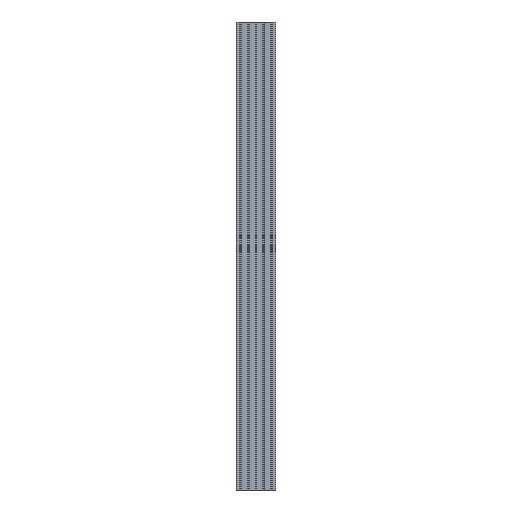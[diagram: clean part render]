
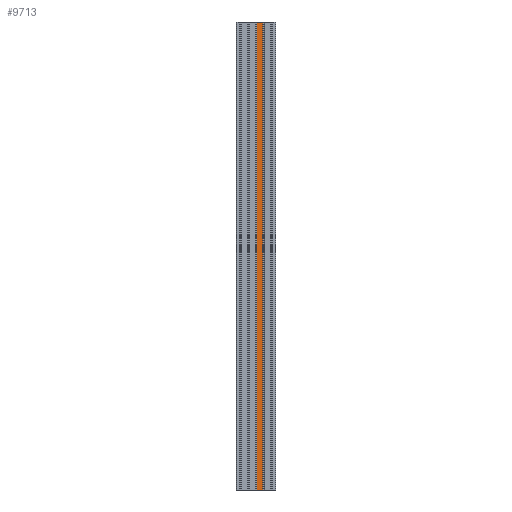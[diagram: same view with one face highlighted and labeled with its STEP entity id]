
A CAD part, front view. The second image highlights one B-rep face of the part: STEP entity #9713.
In plain terms, the highlighted planar face has unit normal (0, -1, 0).
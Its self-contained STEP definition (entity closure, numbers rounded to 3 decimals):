
#773 = FACE_OUTER_BOUND ( 'NONE', #2323, .T. ) ;
#2323 = EDGE_LOOP ( 'NONE', ( #8112, #8114, #8101, #8100 ) ) ;
#2378 = VERTEX_POINT ( 'NONE', #6570 ) ;
#2381 = VERTEX_POINT ( 'NONE', #6565 ) ;
#2488 = EDGE_CURVE ( 'NONE', #11028, #2378, #6370, .T. ) ;
#2490 = EDGE_CURVE ( 'NONE', #11029, #2381, #6367, .T. ) ;
#2515 = EDGE_CURVE ( 'NONE', #2381, #2378, #6315, .T. ) ;
#3007 = EDGE_CURVE ( 'NONE', #11029, #11028, #5459, .T. ) ;
#5456 = VECTOR ( 'NONE', #6844, 1000. ) ;
#5459 = LINE ( 'NONE', #6843, #5456 ) ;
#6310 = VECTOR ( 'NONE', #7570, 1000. ) ;
#6315 = LINE ( 'NONE', #7565, #6310 ) ;
#6360 = VECTOR ( 'NONE', #7517, 1000. ) ;
#6367 = LINE ( 'NONE', #7507, #6360 ) ;
#6368 = VECTOR ( 'NONE', #7509, 1000. ) ;
#6370 = LINE ( 'NONE', #7496, #6368 ) ;
#6565 = CARTESIAN_POINT ( 'NONE',  ( 5.55, 0., -1500. ) ) ;
#6570 = CARTESIAN_POINT ( 'NONE',  ( 44.45, 0., -1500. ) ) ;
#6843 = CARTESIAN_POINT ( 'NONE',  ( 5.55, 0., 1500. ) ) ;
#6844 = DIRECTION ( 'NONE',  ( 1., 0., 0. ) ) ;
#7496 = CARTESIAN_POINT ( 'NONE',  ( 44.45, 0., 1500. ) ) ;
#7507 = CARTESIAN_POINT ( 'NONE',  ( 5.55, 0., 1500. ) ) ;
#7509 = DIRECTION ( 'NONE',  ( 0., 0., -1. ) ) ;
#7517 = DIRECTION ( 'NONE',  ( 0., 0., -1. ) ) ;
#7565 = CARTESIAN_POINT ( 'NONE',  ( 5.55, 0., -1500. ) ) ;
#7570 = DIRECTION ( 'NONE',  ( 1., 0., 0. ) ) ;
#8100 = ORIENTED_EDGE ( 'NONE', *, *, #2490, .T. ) ;
#8101 = ORIENTED_EDGE ( 'NONE', *, *, #3007, .F. ) ;
#8112 = ORIENTED_EDGE ( 'NONE', *, *, #2515, .T. ) ;
#8114 = ORIENTED_EDGE ( 'NONE', *, *, #2488, .F. ) ;
#9331 = AXIS2_PLACEMENT_3D ( 'NONE', #12697, #12706, #12707 ) ;
#9713 = ADVANCED_FACE ( 'NONE', ( #773 ), #12704, .F. ) ;
#10394 = CARTESIAN_POINT ( 'NONE',  ( 44.45, 0., 1500. ) ) ;
#10395 = CARTESIAN_POINT ( 'NONE',  ( 5.55, 0., 1500. ) ) ;
#11028 = VERTEX_POINT ( 'NONE', #10394 ) ;
#11029 = VERTEX_POINT ( 'NONE', #10395 ) ;
#12697 = CARTESIAN_POINT ( 'NONE',  ( 5.55, 0., 1500. ) ) ;
#12704 = PLANE ( 'NONE',  #9331 ) ;
#12706 = DIRECTION ( 'NONE',  ( 0., 1., 0. ) ) ;
#12707 = DIRECTION ( 'NONE',  ( 0., 0., 1. ) ) ;
